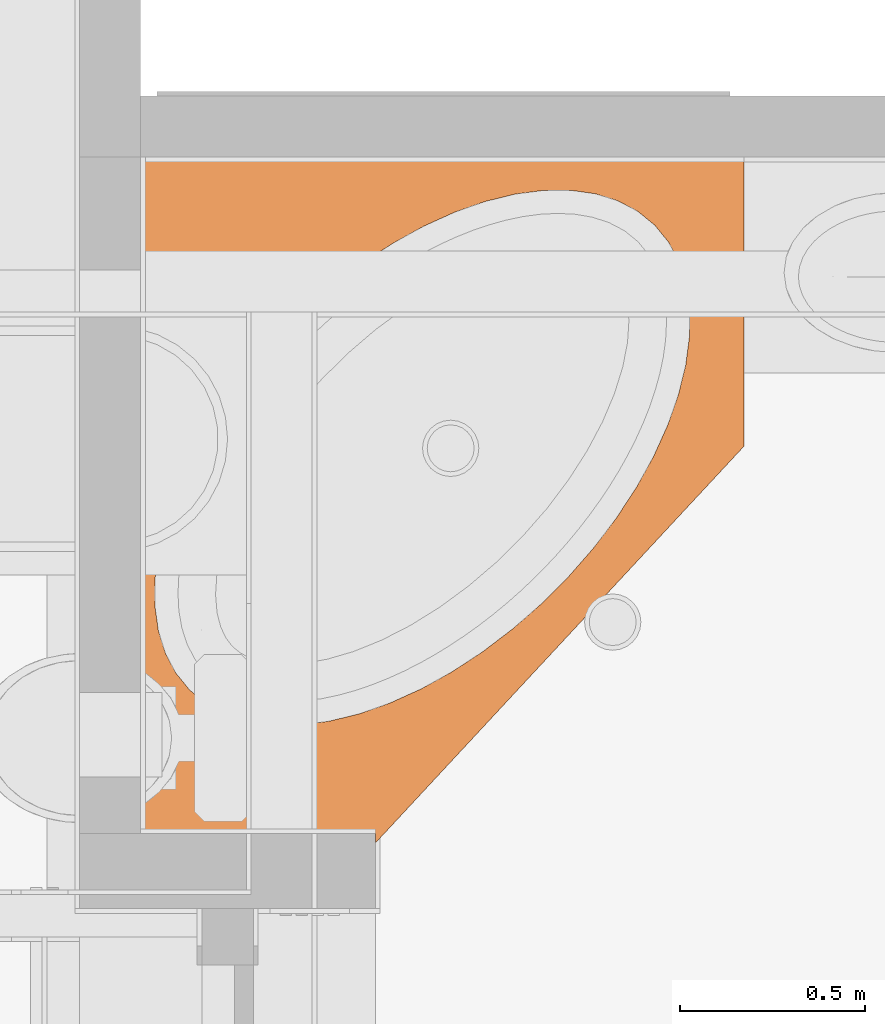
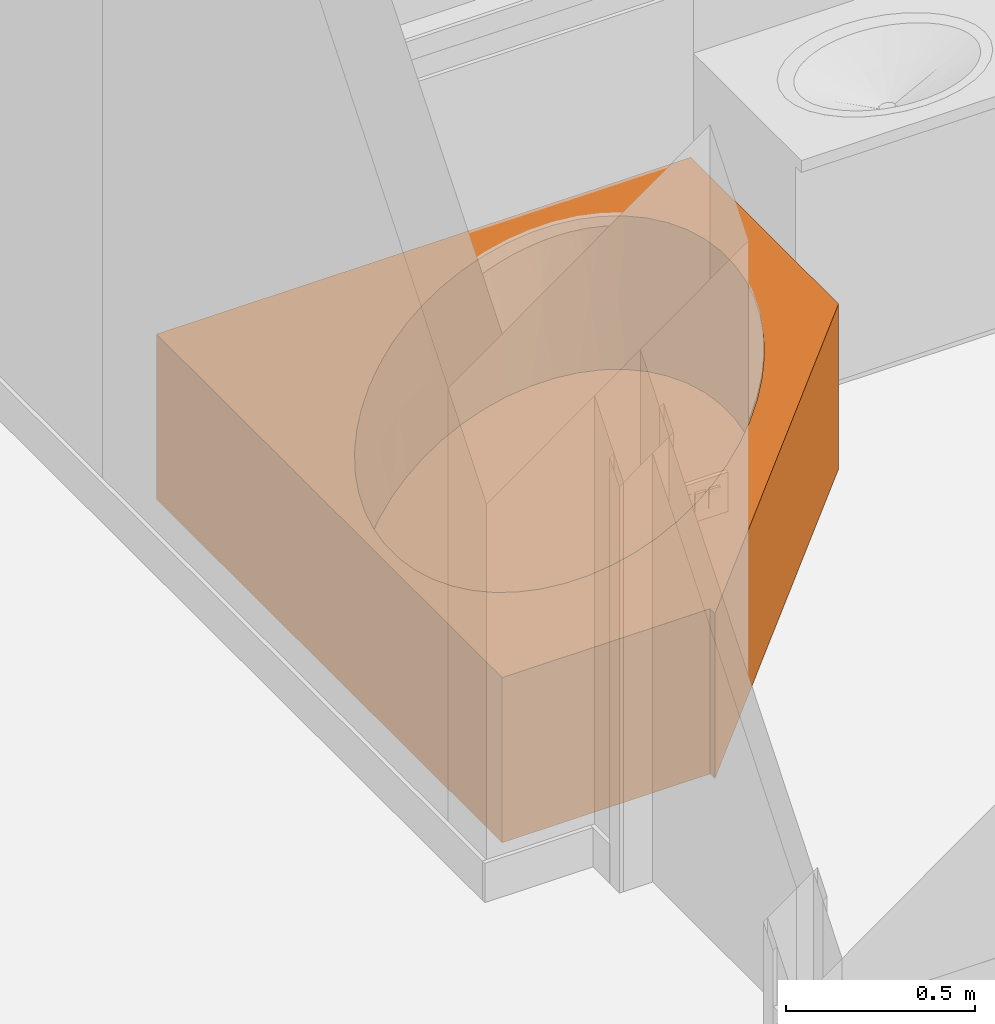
# One storey, part 78 of 81: 1 proxy.
"""IFC2X3 building model written with IfcOpenShell, lengths in feet."""

from ifc_helpers import new_model, entity, si_unit, converted_unit, derived_unit, direction, frame, origin, place, context, subcontext, project, spatial, faceted_brep, source, transform, mapped, material, type_object, type_shapes, element, save


model = new_model("IFC2X3")

# Units and contexts
model_context = context("Model", 3, precision=0.0001, world=origin(), true_north=direction((6.12303176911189e-17, 1.0)))
body_context = subcontext(model_context, "Body", "Model", "MODEL_VIEW")
ifc_project = project(units=[converted_unit("LENGTHUNIT", "FOOT", entity("IfcRatioMeasure", 0.3048), si_unit("LENGTHUNIT", "METRE"), dimensions=[1, 0, 0, 0, 0, 0, 0]), converted_unit("AREAUNIT", "SQUARE FOOT", entity("IfcRatioMeasure", 0.09290304), si_unit("AREAUNIT", "SQUARE_METRE"), dimensions=[2, 0, 0, 0, 0, 0, 0]), converted_unit("VOLUMEUNIT", "CUBIC FOOT", entity("IfcRatioMeasure", 0.028316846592), si_unit("VOLUMEUNIT", "CUBIC_METRE"), dimensions=[3, 0, 0, 0, 0, 0, 0]), converted_unit("PLANEANGLEUNIT", "DEGREE", entity("IfcRatioMeasure", 0.0174532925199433), si_unit("PLANEANGLEUNIT", "RADIAN"), dimensions=[0, 0, 0, 0, 0, 0, 0]), si_unit("MASSUNIT", "GRAM", prefix="KILO"), derived_unit("MASSDENSITYUNIT", [(si_unit("MASSUNIT", "GRAM", prefix="KILO"), 1), (si_unit("LENGTHUNIT", "METRE"), -3)]), derived_unit("MOMENTOFINERTIAUNIT", [(si_unit("LENGTHUNIT", "METRE"), 4)]), si_unit("TIMEUNIT", "SECOND"), si_unit("FREQUENCYUNIT", "HERTZ"), si_unit("THERMODYNAMICTEMPERATUREUNIT", "DEGREE_CELSIUS"), derived_unit("THERMALTRANSMITTANCEUNIT", [(si_unit("MASSUNIT", "GRAM", prefix="KILO"), 1), (si_unit("THERMODYNAMICTEMPERATUREUNIT", "KELVIN"), -1), (si_unit("TIMEUNIT", "SECOND"), -3)]), derived_unit("VOLUMETRICFLOWRATEUNIT", [(si_unit("LENGTHUNIT", "METRE"), 3), (si_unit("TIMEUNIT", "SECOND"), -1)]), si_unit("ELECTRICCURRENTUNIT", "AMPERE"), si_unit("ELECTRICVOLTAGEUNIT", "VOLT"), si_unit("POWERUNIT", "WATT"), si_unit("FORCEUNIT", "NEWTON"), si_unit("ILLUMINANCEUNIT", "LUX"), si_unit("LUMINOUSFLUXUNIT", "LUMEN"), si_unit("LUMINOUSINTENSITYUNIT", "CANDELA"), derived_unit("USERDEFINED", [(si_unit("MASSUNIT", "GRAM", prefix="KILO"), -1), (si_unit("LENGTHUNIT", "METRE"), -2), (si_unit("TIMEUNIT", "SECOND"), 3), (si_unit("LUMINOUSFLUXUNIT", "LUMEN"), 1)]), derived_unit("LINEARVELOCITYUNIT", [(si_unit("LENGTHUNIT", "METRE"), 1), (si_unit("TIMEUNIT", "SECOND"), -1)]), si_unit("PRESSUREUNIT", "PASCAL"), derived_unit("USERDEFINED", [(si_unit("LENGTHUNIT", "METRE"), -2), (si_unit("MASSUNIT", "GRAM", prefix="KILO"), 1), (si_unit("TIMEUNIT", "SECOND"), -2)]), derived_unit("LINEARFORCEUNIT", [(si_unit("MASSUNIT", "GRAM", prefix="KILO"), 1), (si_unit("LENGTHUNIT", "METRE"), 1), (si_unit("TIMEUNIT", "SECOND"), -2), (si_unit("LENGTHUNIT", "METRE"), -1)]), derived_unit("PLANARFORCEUNIT", [(si_unit("MASSUNIT", "GRAM", prefix="KILO"), 1), (si_unit("LENGTHUNIT", "METRE"), 1), (si_unit("TIMEUNIT", "SECOND"), -2), (si_unit("LENGTHUNIT", "METRE"), -2)])], contexts=[model_context])

# Site, building, storey
site_placement = place(None, origin())
site = spatial("IfcSite", under=ifc_project, at=site_placement, Name="Default", CompositionType="ELEMENT")
building_placement = place(site_placement, origin())
building = spatial("IfcBuilding", under=site, at=building_placement, CompositionType="ELEMENT")
storey_placement = place(building_placement, origin())
storey = spatial("IfcBuildingStorey", under=building, at=storey_placement, Name="First floor", CompositionType="ELEMENT", Elevation=0.0)

# Proxy
ifc_material = material(Name="Default New Material")
building_element_proxy_type = type_object("IfcBuildingElementProxyType", Name="Generic Models 25:Generic Models 23", PredefinedType="NOTDEFINED", material=ifc_material)
shared_shape = source(origin(), body_context, "Body", "Brep", [
    faceted_brep([(0.0, 6.08333333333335, 1.75), (2.5083331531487, 5.46914772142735, 1.75), (2.78402200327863, 5.59421761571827, 1.75), (2.23250127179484, 5.31633050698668, 1.75), (3.05583960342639, 5.68984883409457, 1.75), (3.3201100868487, 5.7547481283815, 1.75), (3.57325964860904, 5.78803784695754, 1.75), (5.35416666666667, 6.08333333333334, 1.75), (1.9602565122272, 5.13783256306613, 1.75), (1.69528051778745, 4.93606776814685, 1.75), (1.44115663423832, 4.71376464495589, 1.75), (1.2013214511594, 4.47392946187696, 1.75), (0.979018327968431, 4.21980557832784, 1.75), (0.77725353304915, 3.95482958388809, 1.75), (0.598755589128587, 3.68258482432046, 1.75), (0.445938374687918, 3.4067529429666, 1.75), (0.320868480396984, 3.13106409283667, 1.75), (0.225237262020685, 2.85924649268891, 1.75), (0.160337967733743, 2.5949760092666, 1.75), (0.127048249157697, 2.34182644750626, 1.75), (0.0, 0.0833333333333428, 1.75), (0.125818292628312, 2.10322122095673, 1.75), (0.156664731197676, 1.88238705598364, 1.75), (0.219170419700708, 1.68231035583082, 1.75), (0.312490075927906, 1.50569681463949, 1.75), (0.435361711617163, 1.35493482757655, 1.75), (0.586123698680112, 1.23206319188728, 1.75), (0.762737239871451, 1.13874353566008, 1.75), (0.962813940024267, 1.07623784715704, 1.75), (1.18364810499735, 1.04539140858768, 1.75), (2.08333333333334, 0.0833333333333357, 1.75), (1.42225333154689, 1.04662136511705, 1.75), (1.67540289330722, 1.0799110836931, 1.75), (1.93967337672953, 1.14481037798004, 1.75), (2.2114909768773, 1.24044159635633, 1.75), (2.48717982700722, 1.36551149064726, 1.75), (2.76301170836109, 1.51832870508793, 1.75), (3.03525646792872, 1.69682664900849, 1.75), (2.08333333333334, 0.0, 1.75), (3.30023246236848, 1.89859144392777, 1.75), (3.5543563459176, 2.12089456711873, 1.75), (5.35416666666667, 3.52083333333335, 1.75), (4.86969468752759, 4.73143799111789, 1.75), (4.86846473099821, 4.49283276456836, 1.75), (4.83517501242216, 4.23968320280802, 1.75), (4.77027571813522, 3.97541271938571, 1.75), (4.67464449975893, 3.70359511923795, 1.75), (4.54957460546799, 3.42790626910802, 1.75), (4.39675739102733, 3.15207438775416, 1.75), (4.21825944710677, 2.87982962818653, 1.75), (3.79419152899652, 2.36072975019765, 1.75), (4.01649465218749, 2.61485363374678, 1.75), (3.81186487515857, 5.78926780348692, 1.75), (4.03269904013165, 5.75842136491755, 1.75), (4.23277574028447, 5.69591567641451, 1.75), (4.40938928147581, 5.60259602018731, 1.75), (4.56015126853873, 5.47972438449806, 1.75), (4.68302290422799, 5.32896239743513, 1.75), (4.77634256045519, 5.15234885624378, 1.75), (4.83884824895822, 4.95227215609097, 1.75), (2.125, 0.0448513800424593, 0.0), (2.08333333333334, 0.0, 0.0), (2.08333333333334, 0.0833333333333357, 0.0), (0.0, 0.0833333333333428, 0.0), (0.0, 6.08333333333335, 0.0), (5.35416666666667, 6.08333333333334, 0.0), (5.35416666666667, 3.52083333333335, 0.0), (2.08333333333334, 0.0, 0.416666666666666), (2.48717982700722, 1.36551149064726, 0.125000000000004), (2.76301170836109, 1.51832870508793, 0.125000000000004), (3.03525646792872, 1.69682664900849, 0.125000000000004), (3.30023246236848, 1.89859144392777, 0.125000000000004), (3.5543563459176, 2.12089456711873, 0.125000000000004), (3.79419152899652, 2.36072975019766, 0.125000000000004), (4.01649465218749, 2.61485363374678, 0.125000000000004), (4.21825944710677, 2.87982962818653, 0.125000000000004), (4.39675739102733, 3.15207438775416, 0.125000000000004), (4.549574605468, 3.42790626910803, 0.125000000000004), (4.67464449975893, 3.70359511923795, 0.125000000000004), (4.77027571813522, 3.97541271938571, 0.125000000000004), (4.83517501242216, 4.23968320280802, 0.125000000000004), (4.86846473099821, 4.49283276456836, 0.125000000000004), (4.86969468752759, 4.73143799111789, 0.125000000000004), (4.83884824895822, 4.95227215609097, 0.125000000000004), (4.77634256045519, 5.15234885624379, 0.125000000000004), (4.68302290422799, 5.32896239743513, 0.125000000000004), (4.56015126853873, 5.47972438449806, 0.125000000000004), (4.40938928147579, 5.60259602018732, 0.125000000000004), (4.23277574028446, 5.69591567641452, 0.125000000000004), (4.03269904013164, 5.75842136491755, 0.125000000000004), (3.81186487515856, 5.78926780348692, 0.125000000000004), (3.57325964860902, 5.78803784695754, 0.125000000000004), (3.32011008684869, 5.7547481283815, 0.125000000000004), (3.05583960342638, 5.68984883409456, 0.125000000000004), (2.78402200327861, 5.59421761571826, 0.125000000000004), (2.50833315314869, 5.46914772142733, 0.125000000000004), (2.23250127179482, 5.31633050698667, 0.125000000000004), (1.96025651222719, 5.13783256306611, 0.125000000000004), (1.69528051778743, 4.93606776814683, 0.125000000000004), (1.4411566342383, 4.71376464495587, 0.125000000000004), (1.20132145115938, 4.47392946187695, 0.125000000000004), (0.979018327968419, 4.21980557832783, 0.125000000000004), (0.777253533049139, 3.95482958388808, 0.125000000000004), (0.598755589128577, 3.68258482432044, 0.125000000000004), (0.445938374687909, 3.40675294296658, 0.125000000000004), (0.320868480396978, 3.13106409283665, 0.125000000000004), (0.225237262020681, 2.8592464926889, 0.125000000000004), (0.16033796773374, 2.59497600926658, 0.125000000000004), (0.127048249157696, 2.34182644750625, 0.125000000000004), (0.125818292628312, 2.10322122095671, 0.125000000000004), (0.156664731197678, 1.88238705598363, 0.125000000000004), (0.219170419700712, 1.68231035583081, 0.125000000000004), (0.312490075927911, 1.50569681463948, 0.125000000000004), (0.435361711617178, 1.35493482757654, 0.125000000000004), (0.586123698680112, 1.23206319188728, 0.125000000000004), (0.762737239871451, 1.13874353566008, 0.125000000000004), (0.962813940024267, 1.07623784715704, 0.125000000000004), (1.18364810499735, 1.04539140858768, 0.125000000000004), (1.42225333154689, 1.04662136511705, 0.125000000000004), (1.67540289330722, 1.0799110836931, 0.125000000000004), (1.93967337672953, 1.14481037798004, 0.125000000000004), (2.2114909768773, 1.24044159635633, 0.125000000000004), (4.81150995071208, 5.05508119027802, 0.937499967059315), (1.70924710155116, 1.0865837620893, 0.937500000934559), (4.87309841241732, 4.61416033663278, 0.937499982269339), (4.70922735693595, 5.28706434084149, 0.858648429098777), (4.56015126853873, 5.47972438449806, 0.785315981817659), (4.84131155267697, 4.27333888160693, 0.937500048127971), (4.72623034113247, 3.84021940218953, 0.937499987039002), (4.47651374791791, 3.2897745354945, 0.937499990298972), (3.90772854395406, 2.48621640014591, 0.937499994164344), (4.24286563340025, 2.91493273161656, 0.937500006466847), (3.5864547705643, 2.15118727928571, 0.937500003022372), (3.16887990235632, 1.79496426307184, 0.937499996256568), (2.62531157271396, 1.43857235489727, 0.937499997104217), (2.07486671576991, 1.18885576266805, 0.937499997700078), (0.628021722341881, 1.20585875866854, 0.858648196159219), (1.30092587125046, 1.04198768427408, 0.937499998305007), (0.860004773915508, 1.10357618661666, 0.937499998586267), (0.435361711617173, 1.35493482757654, 0.785316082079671), (0.184003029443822, 1.7795780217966, 0.937499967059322), (3.28626587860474, 5.74807544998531, 0.937500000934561), (0.122414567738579, 2.22049887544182, 0.937499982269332), (0.286285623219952, 1.54759487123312, 0.858648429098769), (0.154201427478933, 2.56132033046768, 0.937500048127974), (0.269282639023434, 2.99443980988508, 0.937499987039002), (0.51899923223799, 3.5448846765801, 0.937499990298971), (1.08778443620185, 4.34844281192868, 0.937499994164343), (0.752647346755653, 3.91972648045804, 0.937500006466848), (1.40905820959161, 4.6834719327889, 0.93750000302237), (1.82663307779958, 5.03969494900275, 0.937499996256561), (2.37020140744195, 5.39608685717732, 0.937499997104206), (2.920646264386, 5.64580344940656, 0.937499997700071), (4.36749125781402, 5.62880045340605, 0.858648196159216), (3.69458710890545, 5.79267152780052, 0.937499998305), (4.1355082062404, 5.73108302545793, 0.93749999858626)], [[[0, 1, 2]], [[1, 0, 3]], [[0, 2, 4]], [[4, 5, 0]], [[6, 0, 5]], [[0, 6, 7]], [[8, 3, 0]], [[8, 0, 9]], [[10, 9, 0]], [[11, 10, 0]], [[12, 11, 0]], [[12, 0, 13]], [[14, 13, 0]], [[0, 15, 14]], [[16, 15, 0]], [[16, 0, 17]], [[18, 17, 0]], [[19, 18, 0]], [[19, 0, 20]], [[21, 19, 20]], [[22, 21, 20]], [[23, 22, 20]], [[24, 23, 20]], [[20, 25, 24]], [[25, 20, 26]], [[27, 26, 20]], [[27, 20, 28]], [[29, 28, 20]], [[29, 20, 30]], [[30, 31, 29]], [[32, 31, 30]], [[30, 33, 32]], [[30, 34, 33]], [[34, 30, 35]], [[36, 35, 30]], [[37, 36, 30]], [[30, 38, 37]], [[39, 37, 38]], [[40, 39, 38]], [[38, 41, 40]], [[42, 41, 7]], [[43, 41, 42]], [[41, 43, 44]], [[44, 45, 41]], [[45, 46, 41]], [[46, 47, 41]], [[47, 48, 41]], [[48, 49, 41]], [[40, 41, 50]], [[50, 41, 51]], [[51, 41, 49]], [[7, 6, 52]], [[53, 7, 52]], [[53, 54, 7]], [[54, 55, 7]], [[56, 7, 55]], [[7, 56, 57]], [[57, 58, 7]], [[7, 58, 59]], [[42, 7, 59]], [[60, 61, 62, 63, 64, 65, 66]], [[20, 0, 64, 63]], [[41, 38, 67, 61, 60, 66]], [[7, 41, 66, 65]], [[0, 7, 65, 64]], [[68, 69, 70, 71, 72, 73, 74, 75, 76, 77, 78, 79, 80, 81, 82, 83, 84, 85, 86, 87, 88, 89, 90, 91, 92, 93, 94, 95, 96, 97, 98, 99, 100, 101, 102, 103, 104, 105, 106, 107, 108, 109, 110, 111, 112, 113, 114, 115, 116, 117, 118, 119, 120, 121]], [[122, 84, 83]], [[33, 123, 32]], [[58, 122, 59]], [[82, 124, 122]], [[125, 126, 85]], [[81, 124, 82]], [[82, 122, 83]], [[125, 57, 126]], [[124, 81, 127]], [[84, 122, 125]], [[81, 80, 127]], [[122, 124, 42]], [[128, 79, 78]], [[79, 128, 127]], [[129, 77, 76]], [[128, 78, 77]], [[74, 73, 130]], [[127, 45, 44]], [[76, 75, 131]], [[130, 131, 74]], [[129, 47, 46]], [[129, 128, 77]], [[73, 72, 132]], [[131, 129, 76]], [[133, 70, 69, 134]], [[57, 56, 126]], [[86, 85, 126]], [[59, 122, 42]], [[134, 68, 121, 135]], [[115, 114, 136]], [[137, 117, 116, 138]], [[127, 43, 124]], [[120, 119, 123]], [[26, 139, 25]], [[139, 114, 113]], [[43, 42, 124]], [[57, 125, 58]], [[128, 45, 127]], [[45, 128, 46]], [[115, 136, 138]], [[125, 122, 58]], [[48, 131, 49]], [[128, 129, 46]], [[47, 129, 48]], [[48, 129, 131]], [[50, 132, 40]], [[51, 131, 130]], [[43, 127, 44]], [[51, 130, 50]], [[130, 73, 132]], [[131, 51, 49]], [[132, 39, 40]], [[71, 70, 133]], [[133, 132, 71]], [[69, 68, 134]], [[134, 36, 37, 133]], [[121, 120, 135]], [[135, 34, 35, 134]], [[123, 31, 32]], [[138, 28, 29, 137]], [[27, 138, 136]], [[26, 136, 139]], [[118, 117, 137]], [[137, 123, 118]], [[116, 115, 138]], [[127, 80, 79]], [[131, 75, 74]], [[132, 72, 71]], [[114, 139, 136]], [[123, 119, 118]], [[135, 120, 123]], [[133, 39, 132]], [[37, 39, 133]], [[35, 36, 134]], [[34, 135, 33]], [[135, 123, 33]], [[31, 123, 137]], [[31, 137, 29]], [[138, 27, 28]], [[84, 125, 85]], [[27, 136, 26]], [[50, 130, 132]], [[140, 111, 110]], [[4, 141, 5]], [[23, 140, 22]], [[109, 142, 140]], [[143, 139, 112]], [[108, 142, 109]], [[109, 140, 110]], [[143, 24, 139]], [[142, 108, 144]], [[111, 140, 143]], [[108, 107, 144]], [[140, 142, 21]], [[145, 106, 105]], [[106, 145, 144]], [[146, 104, 103]], [[145, 105, 104]], [[101, 100, 147]], [[144, 17, 18]], [[103, 102, 148]], [[147, 148, 101]], [[146, 15, 16]], [[146, 145, 104]], [[100, 99, 149]], [[148, 146, 103]], [[150, 97, 96, 151]], [[24, 25, 139]], [[113, 112, 139]], [[22, 140, 21]], [[151, 95, 94, 152]], [[88, 87, 153]], [[154, 90, 89, 155]], [[144, 19, 142]], [[93, 92, 141]], [[55, 126, 56]], [[126, 87, 86]], [[19, 21, 142]], [[24, 143, 23]], [[145, 17, 144]], [[17, 145, 16]], [[88, 153, 155]], [[143, 140, 23]], [[14, 148, 13]], [[145, 146, 16]], [[15, 146, 14]], [[14, 146, 148]], [[11, 149, 10]], [[12, 148, 147]], [[19, 144, 18]], [[12, 147, 11]], [[147, 100, 149]], [[148, 12, 13]], [[149, 9, 10]], [[98, 97, 150]], [[150, 149, 98]], [[96, 95, 151]], [[151, 3, 8, 150]], [[94, 93, 152]], [[152, 2, 1, 151]], [[141, 6, 5]], [[155, 53, 52, 154]], [[54, 155, 153]], [[55, 153, 126]], [[91, 90, 154]], [[154, 141, 91]], [[89, 88, 155]], [[144, 107, 106]], [[148, 102, 101]], [[149, 99, 98]], [[87, 126, 153]], [[141, 92, 91]], [[152, 93, 141]], [[150, 9, 149]], [[8, 9, 150]], [[1, 3, 151]], [[2, 152, 4]], [[152, 141, 4]], [[6, 141, 154]], [[6, 154, 52]], [[155, 54, 53]], [[111, 143, 112]], [[54, 153, 55]], [[11, 147, 149]], [[30, 20, 63, 62]], [[38, 30, 62, 61, 67]]]),
])
type_shapes(building_element_proxy_type, [shared_shape])
proxy_placement = place(storey_placement, frame((-5.77083333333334, 41.41632150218, 10.6666666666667)))
element("IfcBuildingElementProxy", 1, at=proxy_placement, inside=storey, type_object=building_element_proxy_type, material=ifc_material, Name="Generic Models 25:Generic Models 23", ObjectType="Generic Models 25:Generic Models 23", context=body_context, shape_type="MappedRepresentation", body=[
    mapped(shared_shape, transform((0.0, 0.0, 0.0), scale=1.0)),
])

save(model, "model.ifc")
